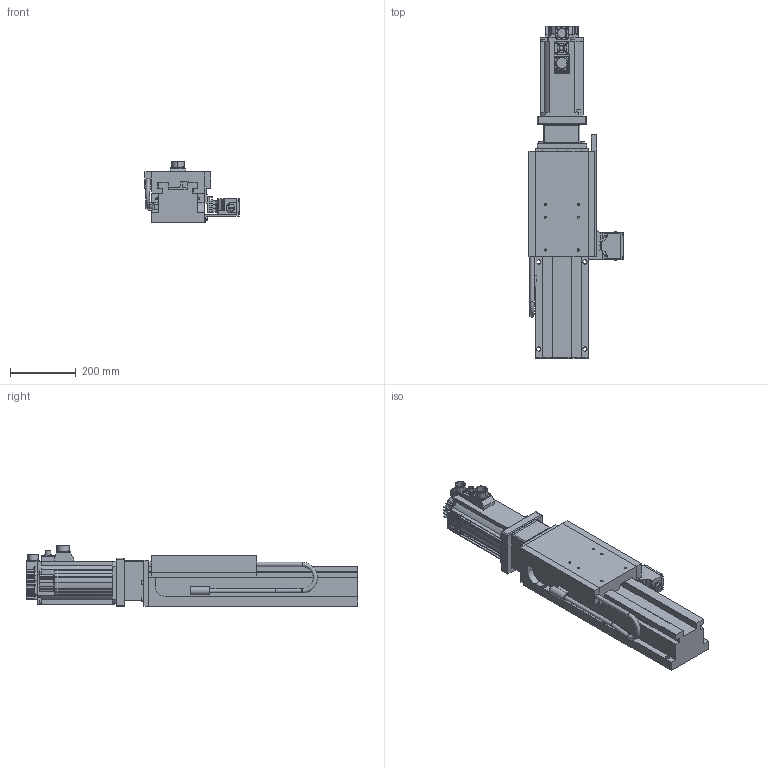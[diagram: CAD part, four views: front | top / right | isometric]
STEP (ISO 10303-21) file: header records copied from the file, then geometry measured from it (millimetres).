
FILE_DESCRIPTION((''),'2;1');
FILE_NAME('C:\VaultWork\Zeichnungen\Maßblätter\Vorschubschlitten\H160\M01698-4-0 Maßblatt H160-me 300-EE.stp','2012-08-07T09:24:06',('Sergeew'),(''),'Autodesk Inventor 2012','Autodesk Inventor 2012','');
FILE_SCHEMA(('AUTOMOTIVE_DESIGN { 1 0 10303 214 1 1 1 1 }'));
Length unit declared in the file: millimetre
Products named in the file (1): M01698-4-0 Maßblatt H160-me 300-EE
Bounding box: 286 x 1009 x 186.25 mm (x, y, z)
Volume: 18055000.7 mm3; surface area: 1061930.4 mm2
Topology: 1 solids, 6 shells, 1085 faces, 2882 edges, 1878 vertices
Faces by surface type: plane 724, cylinder 293, cone 40, torus 23, sphere 3, bspline 2
Full cylindrical faces by diameter (mm): 3.8 x3, 4 x2, 4.134 x4, 4.917 x5, 5.5 x4, 5.9 x2, 6 x5, 6.6 x4, 6.647 x6, 8 x1, 9.98 x2, 10 x5, 13 x14, 20 x2, 25 x1
Entity records: 33817 total; most frequent: CARTESIAN_POINT 6123, DIRECTION 5502, ORIENTED_EDGE 5438, EDGE_CURVE 2719, VECTOR 1910, LINE 1910, VERTEX_POINT 1823, AXIS2_PLACEMENT_3D 1796
